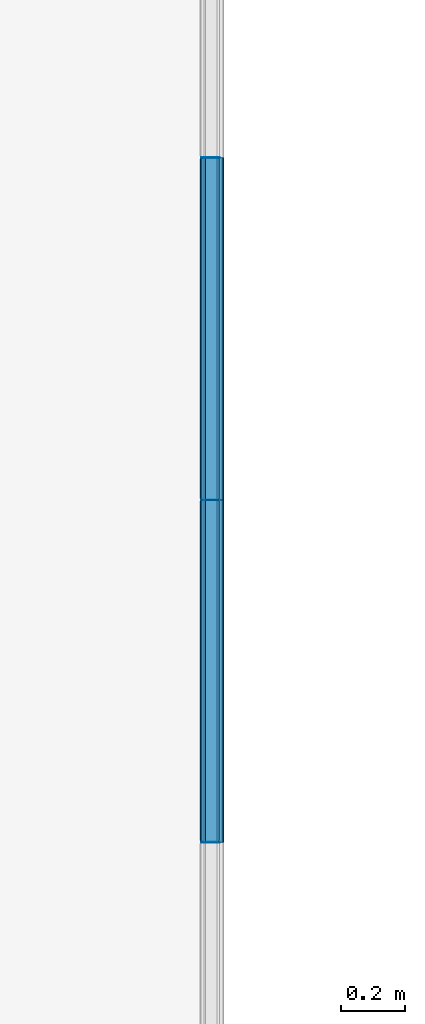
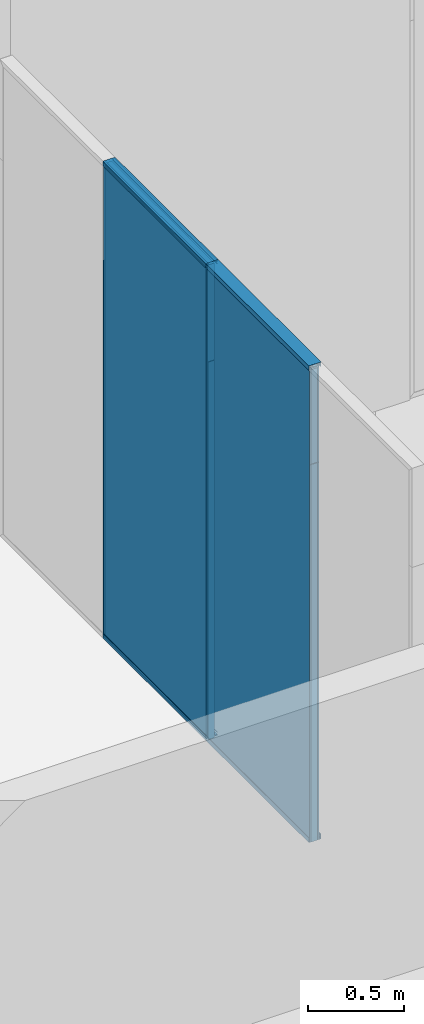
# One storey, part 34 of 387: 18 building element parts, 10 elements without a shape of their own.
"""IFC2X3 building model written with IfcOpenShell, lengths in millimetres."""

from ifc_helpers import new_model, entity, si_unit, converted_unit, derived_unit, money_unit, direction, frame, origin_with_axes, place, context, subcontext, project, spatial, faceted_brep, source, transform, mapped, material, type_object, element, aggregate, save


model = new_model("IFC2X3")

# Units and contexts
model_context = context("Model", 3, precision=0.01, world=origin_with_axes(), true_north=direction((0.0, 1.0)))
body_context = subcontext(model_context, "Body", "Model", "MODEL_VIEW")
ifc_project = project(units=[si_unit("LENGTHUNIT", "METRE", prefix="MILLI"), si_unit("AREAUNIT", "SQUARE_METRE"), si_unit("VOLUMEUNIT", "CUBIC_METRE"), converted_unit("PLANEANGLEUNIT", "DEGREE", entity("IfcPlaneAngleMeasure", 0.0174532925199), si_unit("PLANEANGLEUNIT", "RADIAN"), dimensions=[0, 0, 0, 0, 0, 0, 0]), si_unit("SOLIDANGLEUNIT", "STERADIAN"), money_unit("EUR"), converted_unit("TIMEUNIT", "Year", entity("IfcTimeMeasure", 31556926.0), si_unit("TIMEUNIT", "SECOND"), dimensions=[0, 0, 1, 0, 0, 0, 0]), si_unit("MASSUNIT", "GRAM", prefix="KILO"), si_unit("THERMODYNAMICTEMPERATUREUNIT", "DEGREE_CELSIUS"), si_unit("LUMINOUSINTENSITYUNIT", "LUMEN"), si_unit("ENERGYUNIT", "JOULE", prefix="MEGA"), derived_unit("THERMALCONDUCTANCEUNIT", [(si_unit("POWERUNIT", "WATT"), 1), (si_unit("LENGTHUNIT", "METRE"), -1), (si_unit("THERMODYNAMICTEMPERATUREUNIT", "KELVIN"), -1)]), derived_unit("SPECIFICHEATCAPACITYUNIT", [(si_unit("ENERGYUNIT", "JOULE"), 1), (si_unit("MASSUNIT", "GRAM", prefix="KILO"), -1), (si_unit("THERMODYNAMICTEMPERATUREUNIT", "KELVIN"), -1)]), derived_unit("MASSDENSITYUNIT", [(si_unit("MASSUNIT", "GRAM", prefix="KILO"), 1), (si_unit("VOLUMEUNIT", "CUBIC_METRE"), -1)])], contexts=[model_context])

# Site, building, storey
site_placement = place(None, origin_with_axes())
site = spatial("IfcSite", under=ifc_project, at=site_placement, Name="Puškini 31, Narva", CompositionType="ELEMENT")
building_placement = place(site_placement, origin_with_axes())
building = spatial("IfcBuilding", under=site, at=building_placement, Name="Narva Riigigümnaasium", CompositionType="ELEMENT")
storey_placement = place(building_placement, frame((0.0, 0.0, 2640.0), z_axis=(0.0, 0.0, 1.0), x_axis=(1.0, 0.0, 0.0)))
storey = spatial("IfcBuildingStorey", under=building, at=storey_placement, Name="2.korrus +2.64", CompositionType="ELEMENT", Elevation=2640.0)

# Curtain wall, members, building element parts, plates
curtain_wall_type = type_object("IfcCurtainWallType", Name="Curtain Wall Type", PredefinedType="NOTDEFINED")
curtain_wall_placement = place(storey_placement, frame((30367.9999988, 160809.5, -4.56044140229e-05), z_axis=(0.0, 0.0, 1.0), x_axis=(1.0, 0.0, 0.0)))
curtain_wall = element("IfcCurtainWall", 1, at=curtain_wall_placement, inside=storey, type_object=curtain_wall_type, Name="G-SKLF-47")
member_type_1 = type_object("IfcMemberType", Name="Siseklaasfassaad - Raam n2htamatu 3 x 29", PredefinedType="MULLION")
member_1_placement = place(curtain_wall_placement, frame((-6.37001562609e-09, -536.5, 0.0), z_axis=(0.0, 0.0, 1.0), x_axis=(0.0, -1.0, 0.0)))
member_1 = element("IfcMember", 2, at=member_1_placement, type_object=member_type_1, Name="Frame-Siseklaasf-043", ObjectType="MULLION")
ifc_material_1 = material(Name="Klaas")
shared_shape_1 = source(origin_with_axes(), body_context, "Body", "Brep", [
    faceted_brep([(-1.50001386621, 20.0064497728, 30.0000193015), (-1.5000138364, 20.0064497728, 2400.0000456), (-1.5000138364, 29.0064496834, 2400.0000456), (-1.50001386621, 29.0064496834, 30.0000193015), (0.0, 20.0064497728, 0.0), (1.49998613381, 20.0064497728, 30.0000193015), (1.4999861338, 20.0064497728, 2400.0000456), (1.4999861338, 29.0064496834, 2400.0000456), (0.0, 29.0064496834, 0.0), (1.49998613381, 29.0064496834, 30.0000193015)], [[[0, 1, 2, 3]], [[4, 5, 6, 1, 0]], [[1, 6, 7, 2]], [[8, 3, 2, 7, 9]], [[8, 4, 0, 3]], [[9, 5, 4, 8]], [[9, 7, 6, 5]]]),
    faceted_brep([(-1.50001386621, -28.9935503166, 30.0000193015), (-1.5000138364, -28.9935503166, 2400.0000456), (-1.5000138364, -19.993550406, 2400.0000456), (-1.50001386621, -19.993550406, 30.0000193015), (0.0, -28.9935503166, 0.0), (1.49998613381, -28.9935503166, 30.0000193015), (1.4999861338, -28.9935503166, 2400.0000456), (1.4999861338, -19.993550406, 2400.0000456), (0.0, -19.993550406, 0.0), (1.49998613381, -19.993550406, 30.0000193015)], [[[0, 1, 2, 3]], [[4, 5, 6, 1, 0]], [[6, 7, 2, 1]], [[8, 3, 2, 7, 9]], [[8, 4, 0, 3]], [[9, 5, 4, 8]], [[9, 7, 6, 5]]]),
])
building_element_part_1_placement = place(member_1_placement, origin_with_axes())
building_element_part_1 = element("IfcBuildingElementPart", 3, at=building_element_part_1_placement, material=ifc_material_1, Name="Klaas", context=body_context, shape_type="MappedRepresentation", body=[
    mapped(shared_shape_1, transform((0.0, 0.0, 0.0), x_axis=(-1.0, 0.0, 0.0), y_axis=(0.0, -1.0, 0.0), z_axis=(0.0, 0.0, 1.0))),
])
member_2_placement = place(curtain_wall_placement, frame((6.36646291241e-09, 536.5, 0.0), z_axis=(0.0, 0.0, 1.0), x_axis=(0.0, -1.0, 0.0)))
member_2 = element("IfcMember", 4, at=member_2_placement, type_object=member_type_1, Name="Frame-Siseklaasf-043", ObjectType="MULLION")
building_element_part_2_placement = place(member_2_placement, origin_with_axes())
building_element_part_2 = element("IfcBuildingElementPart", 5, at=building_element_part_2_placement, material=ifc_material_1, Name="Klaas", context=body_context, shape_type="MappedRepresentation", body=[
    mapped(shared_shape_1, transform((0.0, 0.0, 0.0), x_axis=(-1.0, 0.0, 0.0), y_axis=(0.0, -1.0, 0.0), z_axis=(0.0, 0.0, 1.0))),
])
member_3_placement = place(curtain_wall_placement, frame((1.91064941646e-08, 1609.5, 0.0), z_axis=(0.0, 0.0, 1.0), x_axis=(0.0, -1.0, 0.0)))
member_3 = element("IfcMember", 6, at=member_3_placement, type_object=member_type_1, Name="Frame-Siseklaasf-056", ObjectType="MULLION")
building_element_part_3_placement = place(member_3_placement, origin_with_axes())
building_element_part_3 = element("IfcBuildingElementPart", 7, at=building_element_part_3_placement, material=ifc_material_1, Name="Klaas", context=body_context, shape_type="MappedRepresentation", body=[
    mapped(shared_shape_1, transform((0.0, 0.0, 0.0), x_axis=(-1.0, 0.0, 0.0), y_axis=(0.0, -1.0, 0.0), z_axis=(0.0, 0.0, 1.0))),
])
ifc_material_2 = material(Name="VKR-06_Õhkvahe")
shared_shape_2 = source(origin_with_axes(), body_context, "Body", "Brep", [
    faceted_brep([(-1.50001386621, -19.9935503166, 30.0000193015), (-1.5000138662, -19.9935503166, 2400.0000456), (-1.5000138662, 20.0064496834, 2400.0000456), (-1.50001386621, 20.0064496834, 30.0000193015), (0.0, -19.9935503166, 0.0), (1.49998613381, -19.9935503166, 30.0000193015), (1.4999861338, -19.9935503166, 2400.0000456), (1.4999861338, 20.0064496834, 2400.0000456), (0.0, 20.0064496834, 0.0), (1.49998613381, 20.0064496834, 30.0000193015)], [[[0, 1, 2, 3]], [[4, 5, 6, 1, 0]], [[6, 7, 2, 1]], [[8, 3, 2, 7, 9]], [[8, 4, 0, 3]], [[9, 5, 4, 8]], [[9, 7, 6, 5]]]),
])
building_element_part_4_placement = place(member_1_placement, origin_with_axes())
building_element_part_4 = element("IfcBuildingElementPart", 8, at=building_element_part_4_placement, material=ifc_material_2, Name="VKR-06_Õhkvahe", context=body_context, shape_type="MappedRepresentation", body=[
    mapped(shared_shape_2, transform((0.0, 0.0, 0.0), x_axis=(-1.0, 0.0, 0.0), y_axis=(0.0, -1.0, 0.0), z_axis=(0.0, 0.0, 1.0))),
])
aggregate(member_1, [building_element_part_1, building_element_part_4])
building_element_part_5_placement = place(member_2_placement, origin_with_axes())
building_element_part_5 = element("IfcBuildingElementPart", 9, at=building_element_part_5_placement, material=ifc_material_2, Name="VKR-06_Õhkvahe", context=body_context, shape_type="MappedRepresentation", body=[
    mapped(shared_shape_2, transform((0.0, 0.0, 0.0), x_axis=(-1.0, 0.0, 0.0), y_axis=(0.0, -1.0, 0.0), z_axis=(0.0, 0.0, 1.0))),
])
aggregate(member_2, [building_element_part_2, building_element_part_5])
building_element_part_6_placement = place(member_3_placement, origin_with_axes())
building_element_part_6 = element("IfcBuildingElementPart", 10, at=building_element_part_6_placement, material=ifc_material_2, Name="VKR-06_Õhkvahe", context=body_context, shape_type="MappedRepresentation", body=[
    mapped(shared_shape_2, transform((0.0, 0.0, 0.0), x_axis=(-1.0, 0.0, 0.0), y_axis=(0.0, -1.0, 0.0), z_axis=(0.0, 0.0, 1.0))),
])
aggregate(member_3, [building_element_part_3, building_element_part_6])
member_type_2 = type_object("IfcMemberType", Name="Boundary Frame 30 x 42", PredefinedType="MULLION")
member_4_placement = place(curtain_wall_placement, frame((6.36646291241e-09, 536.5, 3029.9999875), z_axis=(0.0, -1.0, 0.0), x_axis=(0.0, 0.0, -1.0)))
member_4 = element("IfcMember", 11, at=member_4_placement, type_object=member_type_2, Name="G-SKLF-98-raam", ObjectType="MULLION")
ifc_material_3 = material(Name="Klaasvill")
shared_shape_3 = source(origin_with_axes(), body_context, "Body", "Brep", [
    faceted_brep([(-13.8499999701, 15.000000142, 0.692505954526), (-7.49999990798, 15.000000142, 0.37500322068), (-7.49999990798, 15.000000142, 1072.62500371), (-13.8499999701, 15.000000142, 1072.30750685), (-13.8499999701, 29.0161444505, 0.692505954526), (-7.49999990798, 29.0161444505, 0.37500322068), (-7.49999990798, 29.0161444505, 1072.62500371), (-13.8499999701, 29.0161444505, 1072.30750685)], [[[0, 1, 2, 3]], [[1, 0, 4, 5]], [[1, 5, 6, 2]], [[2, 6, 7, 3]], [[4, 0, 3, 7]], [[5, 4, 7, 6]]]),
    faceted_brep([(-25.004489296, 27.0307503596, 1.25023521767), (-24.987414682, 29.0161444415, 1.24938147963), (-24.987414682, 29.0161444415, 1071.75064162), (-25.004489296, 27.0307503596, 1071.7497879), (-25.742237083, 26.2930025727, 1.28712292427), (-26.7500193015, 26.0229681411, 1.33751246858), (-27.75780152, 26.2930025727, 1.38790201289), (-28.4955493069, 27.0307503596, 1.4247897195), (-28.7655837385, 28.0385325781, 1.43829155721), (-28.5126239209, 29.0161444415, 1.42564345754), (-28.5126239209, 29.0161444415, 1071.5743829), (-28.7655837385, 28.0385325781, 1071.56173503), (-28.4955493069, 27.0307503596, 1071.57523662), (-27.75780152, 26.2930025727, 1071.61212365), (-26.7500193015, 26.0229681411, 1071.66251226), (-25.742237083, 26.2930025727, 1071.71290087)], [[[0, 1, 2, 3]], [[1, 0, 4, 5, 6, 7, 8, 9]], [[1, 9, 10, 2]], [[2, 10, 11, 12, 13, 14, 15, 3]], [[4, 0, 3, 15]], [[5, 4, 15, 14]], [[6, 5, 14, 13]], [[7, 6, 13, 12]], [[8, 7, 12, 11]], [[9, 8, 11, 10]]]),
    faceted_brep([(-7.49999990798, -39.0161445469, 0.37500322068), (-7.49999990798, -24.9999997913, 0.37500322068), (-7.49999990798, -24.9999997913, 1072.62500371), (-7.49999990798, -39.0161445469, 1072.62500371), (-13.8499999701, -39.0161445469, 0.692505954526), (-13.8499999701, -24.9999997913, 0.692505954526), (-13.8499999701, -24.9999997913, 1072.30750685), (-13.8499999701, -39.0161445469, 1072.30750685)], [[[0, 1, 2, 3]], [[1, 0, 4, 5]], [[1, 5, 6, 2]], [[2, 6, 7, 3]], [[4, 0, 3, 7]], [[5, 4, 7, 6]]]),
    faceted_brep([(-24.987414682, -39.0161444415, 1.24938147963), (-25.004489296, -37.0307503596, 1.25023521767), (-25.004489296, -37.0307503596, 1071.7497879), (-24.987414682, -39.0161444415, 1071.75064162), (-28.5126239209, -39.0161444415, 1.42564345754), (-28.7655837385, -38.0385325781, 1.43829155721), (-28.4955493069, -37.0307503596, 1.4247897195), (-27.75780152, -36.2930025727, 1.38790201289), (-26.7500193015, -36.0229681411, 1.33751246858), (-25.742237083, -36.2930025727, 1.28712292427), (-25.742237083, -36.2930025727, 1071.71290087), (-26.7500193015, -36.0229681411, 1071.66251226), (-27.75780152, -36.2930025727, 1071.61212365), (-28.4955493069, -37.0307503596, 1071.57523662), (-28.7655837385, -38.0385325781, 1071.56173503), (-28.5126239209, -39.0161444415, 1071.5743829)], [[[0, 1, 2, 3]], [[1, 0, 4, 5, 6, 7, 8, 9]], [[1, 9, 10, 2]], [[2, 10, 11, 12, 13, 14, 15, 3]], [[4, 0, 3, 15]], [[5, 4, 15, 14]], [[6, 5, 14, 13]], [[7, 6, 13, 12]], [[8, 7, 12, 11]], [[9, 8, 11, 10]]]),
])
building_element_part_7_placement = place(member_4_placement, origin_with_axes())
building_element_part_7 = element("IfcBuildingElementPart", 12, at=building_element_part_7_placement, material=ifc_material_3, Name="Klaasvill", context=body_context, shape_type="MappedRepresentation", body=[
    mapped(shared_shape_3, transform((0.0, 0.0, 0.0), x_axis=(-1.0, 0.0, 0.0), y_axis=(0.0, -1.0, 0.0), z_axis=(0.0, 0.0, 1.0))),
])
member_5_placement = place(curtain_wall_placement, frame((1.91064941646e-08, 1609.5, 3030.00000976), z_axis=(0.0, -1.0, -2.07451469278e-08), x_axis=(0.0, 2.07451469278e-08, -1.0)))
member_5 = element("IfcMember", 13, at=member_5_placement, type_object=member_type_2, Name="G-SKLF-97-raam", ObjectType="MULLION")
building_element_part_8_placement = place(member_5_placement, origin_with_axes())
building_element_part_8 = element("IfcBuildingElementPart", 14, at=building_element_part_8_placement, material=ifc_material_3, Name="Klaasvill", context=body_context, shape_type="MappedRepresentation", body=[
    mapped(shared_shape_3, transform((0.0, 0.0, 0.0), x_axis=(-1.0, 0.0, -2.07451469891e-08), y_axis=(0.0, -1.0, 0.0), z_axis=(-2.07451469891e-08, 0.0, 1.0))),
])
member_6_placement = place(curtain_wall_placement, frame((-6.37001562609e-09, -536.5, 0.0), z_axis=(0.0, 1.0, 0.0), x_axis=(0.0, 0.0, 1.0)))
member_6 = element("IfcMember", 15, at=member_6_placement, type_object=member_type_2, Name="G-SKLF-91-raam", ObjectType="MULLION")
building_element_part_9_placement = place(member_6_placement, origin_with_axes())
building_element_part_9 = element("IfcBuildingElementPart", 16, at=building_element_part_9_placement, material=ifc_material_3, Name="Klaasvill", context=body_context, shape_type="MappedRepresentation", body=[
    mapped(shared_shape_3, transform((0.0, 0.0, 0.0), x_axis=(-1.0, 0.0, 0.0), y_axis=(0.0, -1.0, 0.0), z_axis=(0.0, 0.0, 1.0))),
])
member_7_placement = place(curtain_wall_placement, frame((6.36646291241e-09, 536.5, 0.0), z_axis=(0.0, 1.0, 0.0), x_axis=(0.0, 0.0, 1.0)))
member_7 = element("IfcMember", 17, at=member_7_placement, type_object=member_type_2, Name="G-SKLF-92-raam", ObjectType="MULLION")
building_element_part_10_placement = place(member_7_placement, origin_with_axes())
building_element_part_10 = element("IfcBuildingElementPart", 18, at=building_element_part_10_placement, material=ifc_material_3, Name="Klaasvill", context=body_context, shape_type="MappedRepresentation", body=[
    mapped(shared_shape_3, transform((0.0, 0.0, 0.0), x_axis=(-1.0, 0.0, 0.0), y_axis=(0.0, -1.0, 0.0), z_axis=(0.0, 0.0, 1.0))),
])
ifc_material_4 = material(Name="Teras RAL7012")
shared_shape_4 = source(origin_with_axes(), body_context, "Body", "Brep", [
    faceted_brep([(-29.5999996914, -22.0000000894, 1.48001271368), (0.0, -22.0000000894, 0.0), (0.0, -22.0000000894, 1073.0), (-29.5999996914, -22.0000000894, 1071.52001465), (-29.5999996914, 12.0000000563, 1.48001271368), (0.0, 12.0000000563, 0.0), (-1.9999999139, 10.0000001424, 0.10000085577), (-18.7999996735, 10.0000001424, 0.940008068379), (-18.7999996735, -20.0000001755, 0.940008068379), (-1.9999999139, -20.0000001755, 0.10000085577), (0.0, 12.0000000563, 1073.0), (-29.5999996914, 12.0000000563, 1071.52001465), (-1.9999999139, 10.0000001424, 1072.90000099), (-1.9999999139, -20.0000001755, 1072.90000099), (-18.7999996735, -20.0000001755, 1072.06000931), (-18.7999996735, 10.0000001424, 1072.06000931)], [[[0, 1, 2, 3]], [[1, 0, 4, 5], [6, 7, 8, 9]], [[1, 5, 10, 2]], [[2, 10, 11, 3], [12, 13, 14, 15]], [[4, 0, 3, 11]], [[5, 4, 11, 10]], [[7, 6, 12, 15]], [[8, 7, 15, 14]], [[9, 8, 14, 13]], [[6, 9, 13, 12]]]),
    faceted_brep([(-29.5999996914, 12.0000000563, 1.48001271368), (0.0, 12.0, 0.0), (0.0, 12.0, 1073.0), (-29.5999996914, 12.0000000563, 1071.52001465), (-30.0000193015, 12.0, 1.50001386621), (-30.0000193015, 15.0, 1.50001386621), (-13.8499999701, 15.000000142, 0.692505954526), (-7.49999999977, 15.0, 0.375003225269), (-7.49999999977, 29.0161444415, 0.375003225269), (-13.8499999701, 29.0161444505, 0.692505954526), (-24.987414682, 29.0161444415, 1.24938147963), (-28.5126239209, 29.0161444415, 1.42564345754), (-30.0000193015, 29.0161444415, 1.50001386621), (-30.0000193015, 32.0, 1.50001386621), (0.0, 32.0, 0.0), (0.0, 32.0, 1073.0), (-30.0000193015, 32.0, 1071.50001387), (-30.0000193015, 29.0161444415, 1071.50001387), (-28.5126239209, 29.0161444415, 1071.5743829), (-24.987414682, 29.0161444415, 1071.75064162), (-13.8499999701, 29.0161444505, 1072.30750685), (-7.49999999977, 29.0161444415, 1072.62500371), (-7.49999999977, 15.0, 1072.62500371), (-13.8499999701, 15.000000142, 1072.30750685), (-30.0000193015, 15.0, 1071.50001387), (-30.0000193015, 12.0, 1071.50001387)], [[[0, 1, 2, 3]], [[1, 0, 4, 5, 6, 7, 8, 9, 10, 11, 12, 13, 14]], [[1, 14, 15, 2]], [[2, 15, 16, 17, 18, 19, 20, 21, 22, 23, 24, 25, 3]], [[4, 0, 3, 25]], [[5, 4, 25, 24]], [[6, 5, 24, 23]], [[7, 6, 23, 22]], [[8, 7, 22, 21]], [[9, 8, 21, 20]], [[10, 9, 20, 19]], [[11, 10, 19, 18]], [[12, 11, 18, 17]], [[13, 12, 17, 16]], [[14, 13, 16, 15]]]),
    faceted_brep([(0.0, -42.0, 0.0), (0.0, -22.0, 0.0), (0.0, -22.0, 1073.0), (0.0, -42.0, 1073.0), (-30.0000193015, -42.0, 1.50001386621), (-30.0000193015, -39.0161444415, 1.50001386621), (-28.5126239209, -39.0161444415, 1.42564345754), (-24.987414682, -39.0161444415, 1.24938147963), (-13.8499999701, -39.0161445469, 0.692505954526), (-7.49999999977, -39.0161444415, 0.375003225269), (-7.49999999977, -25.0, 0.375003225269), (-13.8499999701, -24.9999997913, 0.692505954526), (-30.0000193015, -25.0, 1.50001386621), (-30.0000193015, -22.0, 1.50001386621), (-29.5999996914, -22.0000000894, 1.48001271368), (-29.5999996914, -22.0000000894, 1071.52001465), (-30.0000193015, -22.0, 1071.50001387), (-30.0000193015, -25.0, 1071.50001387), (-13.8499999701, -24.9999997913, 1072.30750685), (-7.49999999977, -25.0, 1072.62500371), (-7.49999999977, -39.0161444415, 1072.62500371), (-13.8499999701, -39.0161445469, 1072.30750685), (-24.987414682, -39.0161444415, 1071.75064162), (-28.5126239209, -39.0161444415, 1071.5743829), (-30.0000193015, -39.0161444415, 1071.50001387), (-30.0000193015, -42.0, 1071.50001387)], [[[0, 1, 2, 3]], [[1, 0, 4, 5, 6, 7, 8, 9, 10, 11, 12, 13, 14]], [[1, 14, 15, 2]], [[2, 15, 16, 17, 18, 19, 20, 21, 22, 23, 24, 25, 3]], [[4, 0, 3, 25]], [[5, 4, 25, 24]], [[6, 5, 24, 23]], [[7, 6, 23, 22]], [[8, 7, 22, 21]], [[9, 8, 21, 20]], [[10, 9, 20, 19]], [[11, 10, 19, 18]], [[12, 11, 18, 17]], [[13, 12, 17, 16]], [[14, 13, 16, 15]]]),
])
building_element_part_11_placement = place(member_4_placement, origin_with_axes())
building_element_part_11 = element("IfcBuildingElementPart", 19, at=building_element_part_11_placement, material=ifc_material_4, Name="Teras RAL7012", context=body_context, shape_type="MappedRepresentation", body=[
    mapped(shared_shape_4, transform((0.0, 0.0, 0.0), x_axis=(-1.0, 0.0, 0.0), y_axis=(0.0, -1.0, 0.0), z_axis=(0.0, 0.0, 1.0))),
])
aggregate(member_4, [building_element_part_7, building_element_part_11])
building_element_part_12_placement = place(member_5_placement, origin_with_axes())
building_element_part_12 = element("IfcBuildingElementPart", 20, at=building_element_part_12_placement, material=ifc_material_4, Name="Teras RAL7012", context=body_context, shape_type="MappedRepresentation", body=[
    mapped(shared_shape_4, transform((0.0, 0.0, 0.0), x_axis=(-1.0, 0.0, -2.07451469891e-08), y_axis=(0.0, -1.0, 0.0), z_axis=(-2.07451469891e-08, 0.0, 1.0))),
])
aggregate(member_5, [building_element_part_8, building_element_part_12])
building_element_part_13_placement = place(member_6_placement, origin_with_axes())
building_element_part_13 = element("IfcBuildingElementPart", 21, at=building_element_part_13_placement, material=ifc_material_4, Name="Teras RAL7012", context=body_context, shape_type="MappedRepresentation", body=[
    mapped(shared_shape_4, transform((0.0, 0.0, 0.0), x_axis=(-1.0, 0.0, 0.0), y_axis=(0.0, -1.0, 0.0), z_axis=(0.0, 0.0, 1.0))),
])
aggregate(member_6, [building_element_part_9, building_element_part_13])
building_element_part_14_placement = place(member_7_placement, origin_with_axes())
building_element_part_14 = element("IfcBuildingElementPart", 22, at=building_element_part_14_placement, material=ifc_material_4, Name="Teras RAL7012", context=body_context, shape_type="MappedRepresentation", body=[
    mapped(shared_shape_4, transform((0.0, 0.0, 0.0), x_axis=(-1.0, 0.0, 0.0), y_axis=(0.0, -1.0, 0.0), z_axis=(0.0, 0.0, 1.0))),
])
aggregate(member_7, [building_element_part_10, building_element_part_14])
plate_type = type_object("IfcPlateType", Name="Siseklaasfassaad - Klaas 1070 x 615 x 10", PredefinedType="CURTAIN_PANEL")
plate_1_placement = place(curtain_wall_placement, frame((0.0, 0.0, 1810.00001104), z_axis=(0.0, 0.0, 1.0), x_axis=(0.0, -1.0, 0.0)))
plate_1 = element("IfcPlate", 23, at=plate_1_placement, type_object=plate_type, Name="G-SKLF-47-klaas", ObjectType="CURTAIN_PANEL")
ifc_material_5 = material(Name="VKR-05_Klaas")
shared_shape_5 = source(origin_with_axes(), body_context, "Body", "Brep", [
    faceted_brep([(-1071.49998172, 3014.99997773, -29.0), (-1071.49998172, 3014.99997773, -20.0), (-1.49999194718, 3014.99997773, -20.0), (-1.49999194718, 3014.99997773, -29.0), (-1071.49998172, 15.0000097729, -29.0), (-1071.49998172, 15.0000097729, -20.0), (-1.49999194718, 15.0000097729, -20.0), (-1.49999194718, 15.0000097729, -29.0)], [[[0, 1, 2, 3]], [[4, 5, 1, 0]], [[1, 5, 6, 2]], [[3, 2, 6, 7]], [[0, 3, 7, 4]], [[7, 6, 5, 4]]]),
    faceted_brep([(-1071.49998172, 3014.99997773, 20.0), (-1071.49998172, 3014.99997773, 29.0), (-1.49999194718, 3014.99997773, 29.0), (-1.49999194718, 3014.99997773, 20.0), (-1071.49998172, 15.0000097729, 20.0), (-1071.49998172, 15.0000097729, 29.0), (-1.49999194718, 15.0000097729, 29.0), (-1.49999194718, 15.0000097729, 20.0)], [[[0, 1, 2, 3]], [[4, 5, 1, 0]], [[1, 5, 6, 2]], [[3, 2, 6, 7]], [[0, 3, 7, 4]], [[7, 6, 5, 4]]]),
])
building_element_part_15_placement = place(plate_1_placement, origin_with_axes())
building_element_part_15 = element("IfcBuildingElementPart", 24, at=building_element_part_15_placement, material=ifc_material_5, Name="VKR-05_Klaas", context=body_context, shape_type="MappedRepresentation", body=[
    mapped(shared_shape_5, transform((536.5, 0.0, -1810.00001104), x_axis=(1.0, 0.0, 0.0), y_axis=(0.0, 0.0, 1.0), z_axis=(0.0, -1.0, 0.0))),
])
plate_2_placement = place(curtain_wall_placement, frame((1.27364785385e-08, 1073.0, 1810.00001475), z_axis=(0.0, 0.0, 1.0), x_axis=(0.0, -1.0, 0.0)))
plate_2 = element("IfcPlate", 25, at=plate_2_placement, type_object=plate_type, Name="G-SKLF-47-klaas", ObjectType="CURTAIN_PANEL")
aggregate(curtain_wall, [member_4, member_5, member_6, member_1, member_2, member_7, member_3, plate_1, plate_2])
building_element_part_16_placement = place(plate_2_placement, origin_with_axes())
building_element_part_16 = element("IfcBuildingElementPart", 26, at=building_element_part_16_placement, material=ifc_material_5, Name="VKR-05_Klaas", context=body_context, shape_type="MappedRepresentation", body=[
    mapped(shared_shape_5, transform((536.5, 0.0, -1810.00001475), x_axis=(1.0, 0.0, 0.0), y_axis=(0.0, 0.0, 1.0), z_axis=(0.0, -1.0, 0.0))),
])
shared_shape_6 = source(origin_with_axes(), body_context, "Body", "Brep", [
    faceted_brep([(-1071.49998172, 3014.99997773, -20.0), (-1071.49998172, 3014.99997773, 20.0), (-1.49999194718, 3014.99997773, 20.0), (-1.49999194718, 3014.99997773, -20.0), (-1071.49998172, 15.0000097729, -20.0), (-1071.49998172, 15.0000097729, 20.0), (-1.49999194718, 15.0000097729, 20.0), (-1.49999194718, 15.0000097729, -20.0)], [[[0, 1, 2, 3]], [[4, 5, 1, 0]], [[1, 5, 6, 2]], [[3, 2, 6, 7]], [[0, 3, 7, 4]], [[7, 6, 5, 4]]]),
])
building_element_part_17_placement = place(plate_1_placement, origin_with_axes())
building_element_part_17 = element("IfcBuildingElementPart", 27, at=building_element_part_17_placement, material=ifc_material_2, Name="VKR-06_Õhkvahe", context=body_context, shape_type="MappedRepresentation", body=[
    mapped(shared_shape_6, transform((536.5, 0.0, -1810.00001104), x_axis=(1.0, 0.0, 0.0), y_axis=(0.0, 0.0, 1.0), z_axis=(0.0, -1.0, 0.0))),
])
aggregate(plate_1, [building_element_part_15, building_element_part_17])
building_element_part_18_placement = place(plate_2_placement, origin_with_axes())
building_element_part_18 = element("IfcBuildingElementPart", 28, at=building_element_part_18_placement, material=ifc_material_2, Name="VKR-06_Õhkvahe", context=body_context, shape_type="MappedRepresentation", body=[
    mapped(shared_shape_6, transform((536.5, 0.0, -1810.00001475), x_axis=(1.0, 0.0, 0.0), y_axis=(0.0, 0.0, 1.0), z_axis=(0.0, -1.0, 0.0))),
])
aggregate(plate_2, [building_element_part_16, building_element_part_18])

save(model, "model.ifc")
